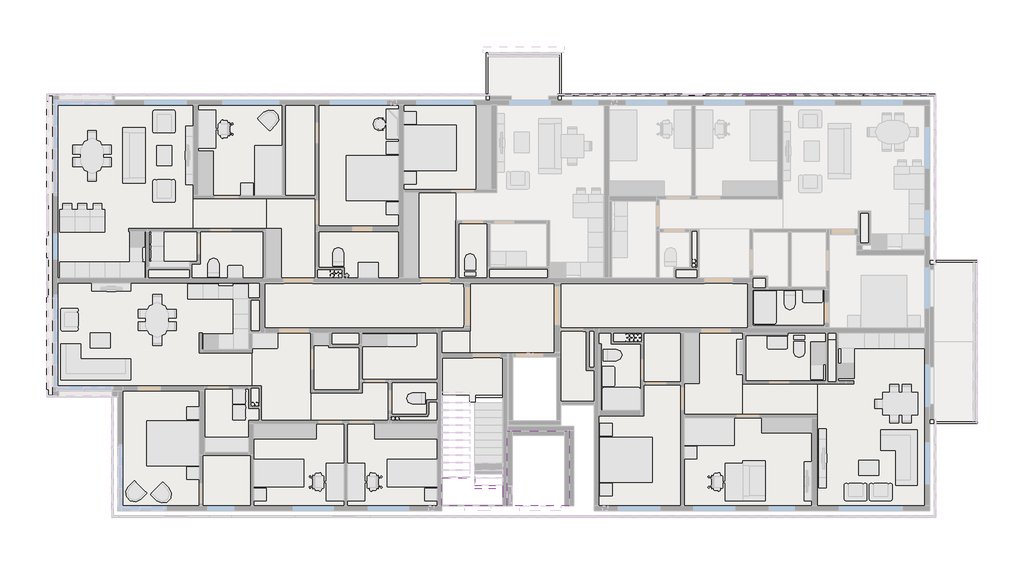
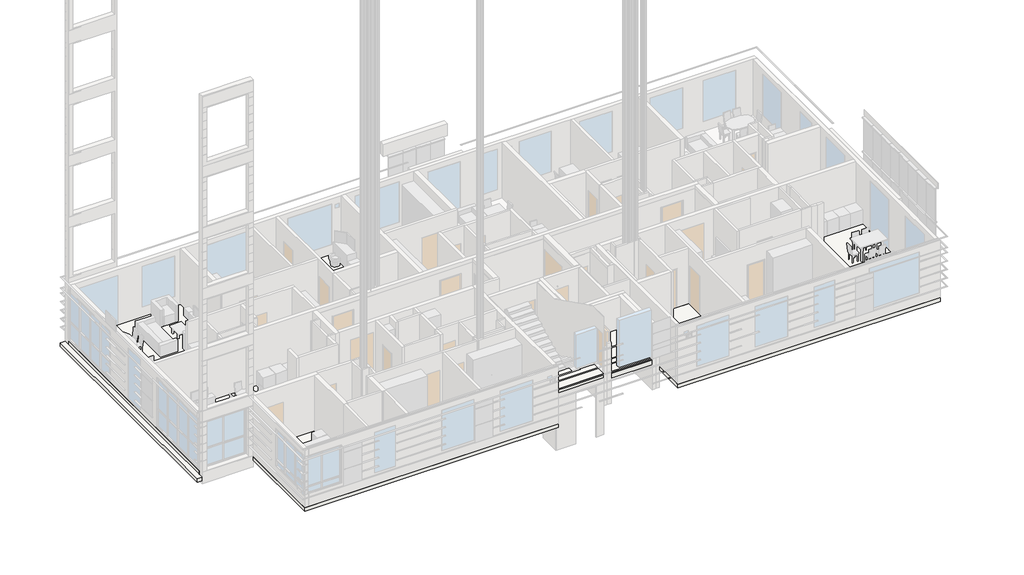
# One storey, part 11 of 14: 42 slabs, 5 proxies.
"""IFC4 building model written with IfcOpenShell, lengths in millimetres."""

from ifc_helpers import new_model, si_unit, frame, origin, place, context, project, spatial, polyline, outline, extrude, faceted_brep, element, save

model = new_model("IFC4")

# Units and contexts
model_context = context("Model", 3, world=origin())
ifc_project = project(units=[si_unit("LENGTHUNIT", "METRE", prefix="MILLI")], contexts=[model_context])

# Site, building, storey
site = spatial("IfcSite", under=ifc_project)
building = spatial("IfcBuilding", under=site)
storey = spatial("IfcBuildingStorey", under=building, Name="03_+7,700_Ж", Elevation=4500.0)

# Proxies
placement = place(None, origin())
element("IfcBuildingElementProxy", 1, Name="Reveals", at=placement, inside=storey, context=model_context, shape_type="SweptSolid", body=[
    extrude(outline(polyline([(161630.0000001, 128049.9999987), (161570.0000001, 127989.9999987), (160230.0000001, 127989.9999987), (160230.0000001, 128049.9999987), (161630.0000001, 128049.9999987)])), frame((0.0, 0.0, 6880.0), z_axis=(0.0, 0.0, 1.0), x_axis=(1.0, 0.0, 0.0)), (0.0, 0.0, 1.0), 5.0),
    extrude(outline(polyline([(147180.0000002, 128049.9999987), (147180.0000002, 127989.9999987), (146529.5000001, 127989.9999987), (146529.5000001, 128049.9999987), (147180.0000002, 128049.9999987)])), frame((0.0, 0.0, 6880.0), z_axis=(0.0, 0.0, 1.0), x_axis=(1.0, 0.0, 0.0)), (0.0, 0.0, 1.0), 5.0),
    extrude(outline(polyline([(149330.0000001, 128049.9999987), (149330.0000001, 127989.9999987), (148080.0000002, 127989.9999987), (148080.0000002, 128049.9999987), (149330.0000001, 128049.9999987)])), frame((0.0, 0.0, 6880.0), z_axis=(0.0, 0.0, 1.0), x_axis=(1.0, 0.0, 0.0)), (0.0, 0.0, 1.0), 5.0),
    extrude(outline(polyline([(152430.0000001, 128049.9999987), (152430.0000001, 127989.9999987), (150830.0000001, 127989.9999987), (150830.0000001, 128049.9999987), (152430.0000001, 128049.9999987)])), frame((0.0, 0.0, 6880.0), z_axis=(0.0, 0.0, 1.0), x_axis=(1.0, 0.0, 0.0)), (0.0, 0.0, 1.0), 5.0),
    extrude(outline(polyline([(156030.0000001, 128049.9999987), (156030.0000001, 127989.9999987), (153930.0000001, 127989.9999987), (153930.0000001, 128049.9999987), (156030.0000001, 128049.9999987)])), frame((0.0, 0.0, 6880.0), z_axis=(0.0, 0.0, 1.0), x_axis=(1.0, 0.0, 0.0)), (0.0, 0.0, 1.0), 5.0),
    extrude(outline(polyline([(158730.0000001, 128049.9999987), (158730.0000001, 127989.9999987), (157530.0000001, 127989.9999987), (157530.0000001, 128049.9999987), (158730.0000001, 128049.9999987)])), frame((0.0, 0.0, 6880.0), z_axis=(0.0, 0.0, 1.0), x_axis=(1.0, 0.0, 0.0)), (0.0, 0.0, 1.0), 5.0),
])
element("IfcBuildingElementProxy", 2, Name="Reveals", at=placement, inside=storey, context=model_context, shape_type="SweptSolid", body=[
    extrude(outline(polyline([(161630.0000001, 128049.9999987), (161570.0000001, 127989.9999987), (160230.0000001, 127989.9999987), (160230.0000001, 128049.9999987), (161630.0000001, 128049.9999987)])), frame((0.0, 0.0, 6425.0), z_axis=(0.0, 0.0, 1.0), x_axis=(1.0, 0.0, 0.0)), (0.0, 0.0, 1.0), 5.0),
    extrude(outline(polyline([(158730.0000001, 128049.9999987), (158730.0000001, 127989.9999987), (157530.0000001, 127989.9999987), (157530.0000001, 128049.9999987), (158730.0000001, 128049.9999987)])), frame((0.0, 0.0, 6425.0), z_axis=(0.0, 0.0, 1.0), x_axis=(1.0, 0.0, 0.0)), (0.0, 0.0, 1.0), 5.0),
    extrude(outline(polyline([(147180.0000002, 128049.9999987), (147180.0000002, 127989.9999987), (146529.5000001, 127989.9999987), (146529.5000001, 128049.9999987), (147180.0000002, 128049.9999987)])), frame((0.0, 0.0, 6425.0), z_axis=(0.0, 0.0, 1.0), x_axis=(1.0, 0.0, 0.0)), (0.0, 0.0, 1.0), 5.0),
    extrude(outline(polyline([(149330.0000001, 128049.9999987), (149330.0000001, 127989.9999987), (148080.0000002, 127989.9999987), (148080.0000002, 128049.9999987), (149330.0000001, 128049.9999987)])), frame((0.0, 0.0, 6425.0), z_axis=(0.0, 0.0, 1.0), x_axis=(1.0, 0.0, 0.0)), (0.0, 0.0, 1.0), 5.0),
    extrude(outline(polyline([(151530.0000001, 128049.9999987), (151530.0000001, 127989.9999987), (150830.0000001, 127989.9999987), (150830.0000001, 128049.9999987), (151530.0000001, 128049.9999987)])), frame((0.0, 0.0, 6425.0), z_axis=(0.0, 0.0, 1.0), x_axis=(1.0, 0.0, 0.0)), (0.0, 0.0, 1.0), 5.0),
    extrude(outline(polyline([(156030.0000001, 128049.9999987), (156030.0000001, 127989.9999987), (153930.0000001, 127989.9999987), (153930.0000001, 128049.9999987), (156030.0000001, 128049.9999987)])), frame((0.0, 0.0, 6425.0), z_axis=(0.0, 0.0, 1.0), x_axis=(1.0, 0.0, 0.0)), (0.0, 0.0, 1.0), 5.0),
])
element("IfcBuildingElementProxy", 3, Name="Reveals", at=placement, inside=storey, context=model_context, shape_type="SweptSolid", body=[
    extrude(outline(polyline([(161630.0000001, 128049.9999987), (161570.0000001, 127989.9999987), (160230.0000001, 127989.9999987), (160230.0000001, 128049.9999987), (161630.0000001, 128049.9999987)])), frame((0.0, 0.0, 5970.0), z_axis=(0.0, 0.0, 1.0), x_axis=(1.0, 0.0, 0.0)), (0.0, 0.0, 1.0), 5.0),
    extrude(outline(polyline([(147180.0000002, 128049.9999987), (147180.0000002, 127989.9999987), (146529.5000001, 127989.9999987), (146529.5000001, 128049.9999987), (147180.0000002, 128049.9999987)])), frame((0.0, 0.0, 5970.0), z_axis=(0.0, 0.0, 1.0), x_axis=(1.0, 0.0, 0.0)), (0.0, 0.0, 1.0), 5.0),
    extrude(outline(polyline([(149330.0000001, 128049.9999987), (149330.0000001, 127989.9999987), (148080.0000002, 127989.9999987), (148080.0000002, 128049.9999987), (149330.0000001, 128049.9999987)])), frame((0.0, 0.0, 5970.0), z_axis=(0.0, 0.0, 1.0), x_axis=(1.0, 0.0, 0.0)), (0.0, 0.0, 1.0), 5.0),
    extrude(outline(polyline([(152430.0000001, 128049.9999987), (152430.0000001, 127989.9999987), (150830.0000001, 127989.9999987), (150830.0000001, 128049.9999987), (152430.0000001, 128049.9999987)])), frame((0.0, 0.0, 5970.0), z_axis=(0.0, 0.0, 1.0), x_axis=(1.0, 0.0, 0.0)), (0.0, 0.0, 1.0), 5.0),
    extrude(outline(polyline([(156030.0000001, 128049.9999987), (156030.0000001, 127989.9999987), (153930.0000001, 127989.9999987), (153930.0000001, 128049.9999987), (156030.0000001, 128049.9999987)])), frame((0.0, 0.0, 5970.0), z_axis=(0.0, 0.0, 1.0), x_axis=(1.0, 0.0, 0.0)), (0.0, 0.0, 1.0), 5.0),
    extrude(outline(polyline([(158730.0000001, 128049.9999987), (158730.0000001, 127989.9999987), (157530.0000001, 127989.9999987), (157530.0000001, 128049.9999987), (158730.0000001, 128049.9999987)])), frame((0.0, 0.0, 5970.0), z_axis=(0.0, 0.0, 1.0), x_axis=(1.0, 0.0, 0.0)), (0.0, 0.0, 1.0), 5.0),
])
element("IfcBuildingElementProxy", 4, Name="Reveals", at=placement, inside=storey, context=model_context, shape_type="SweptSolid", body=[
    extrude(outline(polyline([(161630.0000001, 128049.9999987), (161570.0000001, 127989.9999987), (160230.0000001, 127989.9999987), (160230.0000001, 128049.9999987), (161630.0000001, 128049.9999987)])), frame((0.0, 0.0, 5515.0), z_axis=(0.0, 0.0, 1.0), x_axis=(1.0, 0.0, 0.0)), (0.0, 0.0, 1.0), 5.0),
    extrude(outline(polyline([(158730.0000001, 128049.9999987), (158730.0000001, 127989.9999987), (157530.0000001, 127989.9999987), (157530.0000001, 128049.9999987), (158730.0000001, 128049.9999987)])), frame((0.0, 0.0, 5515.0), z_axis=(0.0, 0.0, 1.0), x_axis=(1.0, 0.0, 0.0)), (0.0, 0.0, 1.0), 5.0),
    extrude(outline(polyline([(147180.0000002, 128049.9999987), (147180.0000002, 127989.9999987), (146529.5000001, 127989.9999987), (146529.5000001, 128049.9999987), (147180.0000002, 128049.9999987)])), frame((0.0, 0.0, 5515.0), z_axis=(0.0, 0.0, 1.0), x_axis=(1.0, 0.0, 0.0)), (0.0, 0.0, 1.0), 5.0),
    extrude(outline(polyline([(149330.0000001, 128049.9999987), (149330.0000001, 127989.9999987), (148080.0000002, 127989.9999987), (148080.0000002, 128049.9999987), (149330.0000001, 128049.9999987)])), frame((0.0, 0.0, 5515.0), z_axis=(0.0, 0.0, 1.0), x_axis=(1.0, 0.0, 0.0)), (0.0, 0.0, 1.0), 5.0),
    extrude(outline(polyline([(151530.0000001, 128049.9999987), (151530.0000001, 127989.9999987), (150830.0000001, 127989.9999987), (150830.0000001, 128049.9999987), (151530.0000001, 128049.9999987)])), frame((0.0, 0.0, 5515.0), z_axis=(0.0, 0.0, 1.0), x_axis=(1.0, 0.0, 0.0)), (0.0, 0.0, 1.0), 5.0),
    extrude(outline(polyline([(156030.0000001, 128049.9999987), (156030.0000001, 127989.9999987), (153930.0000001, 127989.9999987), (153930.0000001, 128049.9999987), (156030.0000001, 128049.9999987)])), frame((0.0, 0.0, 5515.0), z_axis=(0.0, 0.0, 1.0), x_axis=(1.0, 0.0, 0.0)), (0.0, 0.0, 1.0), 5.0),
])
element("IfcBuildingElementProxy", 5, Name="Reveals", at=placement, inside=storey, context=model_context, shape_type="SweptSolid", body=[
    extrude(outline(polyline([(161630.0000001, 128049.9999987), (161570.0000001, 127989.9999987), (146529.5000001, 127989.9999987), (146529.5000001, 128049.9999987), (161630.0000001, 128049.9999987)])), frame((0.0, 0.0, 5060.0), z_axis=(0.0, 0.0, 1.0), x_axis=(1.0, 0.0, 0.0)), (0.0, 0.0, 1.0), 5.0),
])

# Slabs
element("IfcSlab", 6, ObjectType="FIN_50_Тип 17_ЛК промежуточные-------", at=placement, inside=storey, context=model_context, shape_type="Brep", body=[
    faceted_brep([(144350.0000001, 111599.9999987, 6100.0), (141910.0000001, 111599.9999987, 6100.0), (141910.0000001, 112719.9999987, 6100.0), (143230.0000001, 112719.9999987, 6100.0), (143230.0000001, 112419.9999987, 6100.0), (144350.0000001, 112419.9999987, 6100.0), (144350.0000001, 111599.9999987, 6150.0), (144350.0000001, 112419.9999987, 6150.0), (143230.0000001, 112419.9999987, 6150.0), (143230.0000001, 112719.9999987, 6150.0), (141910.0000001, 112719.9999987, 6150.0), (141910.0000001, 111599.9999987, 6150.0), (144350.0000001, 112419.9999987, 6120.0), (143230.0000001, 112719.9999987, 6120.0), (143230.0000001, 112419.9999987, 6120.0)], [[[0, 1, 2, 3, 4, 5]], [[6, 7, 8, 9, 10, 11]], [[0, 5, 12, 7, 6]], [[2, 1, 11, 10]], [[1, 0, 6, 11]], [[3, 2, 10, 9, 13]], [[5, 4, 14, 8, 7, 12]], [[4, 3, 13, 9, 8, 14]]]),
])
element("IfcSlab", 7, ObjectType="STR_CIP_UP_200_выше 0,000-------", at=placement, inside=storey, context=model_context, shape_type="SweptSolid", body=[
    extrude(outline(polyline([(144350.0000002, 111599.9999987), (141910.0000001, 111599.9999987), (141910.0000001, 112749.9999987), (143230.0000002, 112749.9999987), (143230.0000002, 112289.9999987), (144350.0000002, 112289.9999987), (144350.0000002, 111599.9999987)])), frame((0.0, 0.0, 5920.0), z_axis=(0.0, 0.0, 1.0), x_axis=(1.0, 0.0, 0.0)), (0.0, 0.0, 1.0), 200.0),
])
element("IfcSlab", 8, ObjectType="STR_CIP_UP_200_выше 0,000-------", at=placement, inside=storey, context=model_context, shape_type="Brep", body=[
    faceted_brep([(141910.0000002, 111399.9999987, 4200.0), (128980.0000001, 111399.9999987, 4200.0), (128980.0000001, 116199.9999987, 4200.0), (126380.0000001, 116199.9999987, 4200.0), (126380.0000001, 127799.9999987, 4200.0), (143679.5000001, 127799.9999987, 4200.0), (143679.5000001, 128049.9999987, 4200.0), (143679.5000001, 129699.9999987, 4200.0), (146679.5000001, 129699.9999987, 4200.0), (146679.5000001, 128049.9999987, 4200.0), (146679.5000001, 127799.9999987, 4200.0), (161380.0000001, 127799.9999987, 4200.0), (161380.0000001, 121399.9999987, 4200.0), (161630.0000001, 121399.9999987, 4200.0), (163280.0000001, 121399.9999987, 4200.0), (163280.0000001, 114899.9999987, 4200.0), (161630.0000001, 114899.9999987, 4200.0), (161380.0000001, 114899.9999987, 4200.0), (161380.0000001, 111599.9999987, 4200.0), (161380.0000001, 111399.9999987, 4200.0), (148000.0000001, 111399.9999987, 4200.0), (148000.0000001, 111599.9999987, 4200.0), (148000.0000001, 115639.9999987, 4200.0), (146700.0000002, 115639.9999987, 4200.0), (146700.0000002, 117749.9999987, 4200.0), (144530.0000001, 117749.9999987, 4200.0), (144530.0000001, 117519.9999987, 4200.0), (144530.0000001, 115939.9999989, 4200.0), (144350.0000001, 115939.9999989, 4200.0), (144340.0000001, 115939.9999989, 4200.0), (143229.9999999, 115939.9999989, 4200.0), (143229.9999999, 115749.9999989, 4200.0), (143030.0000001, 115749.9999989, 4200.0), (143030.0000001, 115867.7708751, 4200.0), (143030.0000001, 116149.9999987, 4200.0), (141910.0000001, 116149.9999987, 4200.0), (141910.0000001, 115867.7708751, 4200.0), (128980.0000001, 111399.9999987, 4400.0), (141910.0000002, 111399.9999987, 4400.0), (141910.0000001, 116019.9999987, 4400.0), (141910.0000001, 116149.9999987, 4400.0), (143030.0000001, 116149.9999987, 4400.0), (143030.0000001, 116019.9999987, 4400.0), (143030.0000001, 115749.9999989, 4400.0), (143229.9999999, 115749.9999989, 4400.0), (143229.9999999, 115939.9999989, 4400.0), (144350.0000001, 115939.9999989, 4400.0), (144530.0000001, 115939.9999989, 4400.0), (144530.0000001, 117519.9999987, 4400.0), (144530.0000001, 117749.9999987, 4400.0), (146700.0000002, 117749.9999987, 4400.0), (146700.0000002, 115639.9999987, 4400.0), (148000.0000001, 115639.9999987, 4400.0), (148000.0000001, 111599.9999987, 4400.0), (148000.0000001, 111399.9999987, 4400.0), (161380.0000001, 111399.9999987, 4400.0), (161380.0000001, 111599.9999987, 4400.0), (161380.0000001, 114899.9999987, 4400.0), (161630.0000001, 114899.9999987, 4400.0), (163280.0000001, 114899.9999987, 4400.0), (163280.0000001, 121399.9999987, 4400.0), (161630.0000001, 121399.9999987, 4400.0), (161380.0000001, 121399.9999987, 4400.0), (161380.0000001, 127799.9999987, 4400.0), (146679.5000001, 127799.9999987, 4400.0), (146679.5000001, 128049.9999987, 4400.0), (146679.5000001, 129699.9999987, 4400.0), (143679.5000001, 129699.9999987, 4400.0), (143679.5000001, 128049.9999987, 4400.0), (143679.5000001, 127799.9999987, 4400.0), (126380.0000001, 127799.9999987, 4400.0), (126380.0000001, 116199.9999987, 4400.0), (128980.0000001, 116199.9999987, 4400.0), (143030.0000001, 115749.9999989, 4320.0)], [[[0, 1, 2, 3, 4, 5, 6, 7, 8, 9, 10, 11, 12, 13, 14, 15, 16, 17, 18, 19, 20, 21, 22, 23, 24, 25, 26, 27, 28, 29, 30, 31, 32, 33, 34, 35, 36]], [[37, 38, 39, 40, 41, 42, 43, 44, 45, 46, 47, 48, 49, 50, 51, 52, 53, 54, 55, 56, 57, 58, 59, 60, 61, 62, 63, 64, 65, 66, 67, 68, 69, 70, 71, 72]], [[1, 0, 38, 37]], [[2, 1, 37, 72]], [[11, 10, 64, 63]], [[12, 11, 63, 62]], [[3, 2, 72, 71]], [[4, 3, 71, 70]], [[14, 13, 12, 62, 61, 60]], [[15, 14, 60, 59]], [[17, 16, 15, 59, 58, 57]], [[19, 18, 17, 57, 56, 55]], [[5, 4, 70, 69]], [[7, 6, 5, 69, 68, 67]], [[8, 7, 67, 66]], [[10, 9, 8, 66, 65, 64]], [[20, 19, 55, 54]], [[22, 21, 20, 54, 53, 52]], [[23, 22, 52, 51]], [[38, 0, 36, 35, 40, 39]], [[32, 31, 44, 43, 73]], [[41, 34, 33, 32, 73, 43, 42]], [[24, 23, 51, 50]], [[25, 24, 50, 49]], [[27, 26, 25, 49, 48, 47]], [[34, 41, 40, 35]], [[30, 29, 28, 27, 47, 46, 45]], [[31, 30, 45, 44]]]),
])
element("IfcSlab", 9, ObjectType="FIN_100_Тип 15_МОП поэтажные-------", at=placement, inside=storey, context=model_context, shape_type="SweptSolid", body=[
    extrude(outline(polyline([(142240.0000001, 120499.9999987), (142800.0000002, 120499.9999987), (142800.0000002, 120334.9999987), (142925.0000002, 120334.9999987), (142925.0000002, 118804.9999987), (142800.0000002, 118804.9999987), (142800.0000002, 118699.9999987), (136580.0000001, 118699.9999987), (136580.0000001, 118599.9999987), (135430.0000001, 118599.9999987), (135430.0000001, 118699.9999987), (134840.0000001, 118699.9999987), (134840.0000001, 120499.9999987), (135605.0000001, 120499.9999987), (135605.0000001, 120599.9999987), (136755.0000001, 120599.9999987), (136755.0000001, 120499.9999987), (141090.0000001, 120499.9999987), (141090.0000001, 120599.9999987), (142240.0000001, 120599.9999987), (142240.0000001, 120499.9999987)])), frame((0.0, 0.0, 4400.0), z_axis=(0.0, 0.0, 1.0), x_axis=(1.0, 0.0, 0.0)), (0.0, 0.0, 1.0), 100.0),
])
element("IfcSlab", 10, ObjectType="FIN_100_Тип 15_МОП поэтажные-------", at=placement, inside=storey, context=model_context, shape_type="SweptSolid", body=[
    extrude(outline(polyline([(152375.0000001, 120499.9999987), (152375.0000001, 120599.9999987), (153525.0000001, 120599.9999987), (153525.0000001, 120499.9999987), (154130.0000001, 120499.9999987), (154130.0000001, 118699.9999987), (153432.0000001, 118699.9999987), (153432.0000001, 118599.9999987), (152282.0000001, 118599.9999987), (152282.0000001, 118699.9999987), (147550.0000002, 118699.9999987), (147550.0000002, 118639.9999987), (146650.0000002, 118639.9999987), (146650.0000002, 118824.9999987), (146525.0000002, 118824.9999987), (146525.0000002, 120354.9999987), (146650.0000002, 120354.9999987), (146650.0000002, 120499.9999987), (152375.0000001, 120499.9999987)])), frame((0.0, 0.0, 4400.0), z_axis=(0.0, 0.0, 1.0), x_axis=(1.0, 0.0, 0.0)), (0.0, 0.0, 1.0), 100.0),
])
element("IfcSlab", 11, ObjectType="FIN_100_Тип 15_МОП поэтажные-------", at=placement, inside=storey, context=model_context, shape_type="SweptSolid", body=[
    extrude(outline(polyline([(146400.0000002, 120499.9999987), (146400.0000002, 120354.9999987), (146525.0000002, 120354.9999987), (146525.0000002, 118824.9999987), (146400.0000002, 118824.9999987), (146400.0000002, 117699.9999987), (144250.0000002, 117699.9999987), (144250.0000002, 117609.9999987), (143150.0000002, 117609.9999987), (143150.0000002, 117699.9999987), (143050.0000002, 117699.9999987), (143050.0000002, 118804.9999987), (142925.0000002, 118804.9999987), (142925.0000002, 120334.9999987), (143050.0000002, 120334.9999987), (143050.0000002, 120499.9999987), (146400.0000002, 120499.9999987)])), frame((0.0, 0.0, 4400.0), z_axis=(0.0, 0.0, 1.0), x_axis=(1.0, 0.0, 0.0)), (0.0, 0.0, 1.0), 100.0),
])
element("IfcSlab", 12, ObjectType="FIN_100_Тип 15_ЛК поэтажные-------", at=placement, inside=storey, context=model_context, shape_type="Brep", body=[
    faceted_brep([(143150.0000002, 117519.9999987, 4400.0), (143150.0000002, 117609.9999987, 4400.0), (144250.0000002, 117609.9999987, 4400.0), (144250.0000002, 117519.9999987, 4400.0), (144350.0000002, 117519.9999987, 4400.0), (144350.0000002, 116029.9999988, 4400.0), (143239.9999999, 116029.9999988, 4400.0), (143239.9999999, 115749.9999989, 4400.0), (143019.9999999, 115749.9999989, 4400.0), (143019.9999999, 116029.9999988, 4400.0), (141910.0000002, 116029.9999988, 4400.0), (141910.0000002, 117519.9999987, 4400.0), (143150.0000002, 117519.9999987, 4500.0), (141910.0000002, 117519.9999987, 4500.0), (141910.0000002, 116029.9999988, 4500.0), (143019.9999999, 116029.9999988, 4500.0), (143019.9999999, 116019.9999987, 4500.0), (143019.9999999, 115749.9999989, 4500.0), (143030.0000001, 115749.9999989, 4500.0), (143239.9999999, 115749.9999989, 4500.0), (143239.9999999, 116029.9999988, 4500.0), (144350.0000002, 116029.9999988, 4500.0), (144350.0000002, 117519.9999987, 4500.0), (144250.0000002, 117519.9999987, 4500.0), (144250.0000002, 117609.9999987, 4500.0), (143150.0000002, 117609.9999987, 4500.0), (143019.9999999, 115749.9999989, 4470.0)], [[[0, 1, 2, 3, 4, 5, 6, 7, 8, 9, 10, 11]], [[12, 13, 14, 15, 16, 17, 18, 19, 20, 21, 22, 23, 24, 25]], [[1, 0, 12, 25]], [[2, 1, 25, 24]], [[3, 2, 24, 23]], [[4, 3, 23, 22]], [[5, 4, 22, 21]], [[8, 7, 19, 18, 17, 26]], [[9, 8, 26, 17, 16, 15]], [[10, 9, 15, 14]], [[11, 10, 14, 13]], [[0, 11, 13, 12]], [[6, 5, 21, 20]], [[7, 6, 20, 19]]]),
])
element("IfcSlab", 13, ObjectType="FIN_100_Тех.пом поэтажные-------", at=placement, inside=storey, context=model_context, shape_type="SweptSolid", body=[
    extrude(outline(polyline([(147550.0000002, 118639.9999987), (147550.0000002, 118579.9999987), (147680.0000001, 118579.9999987), (147680.0000001, 117009.9999987), (148000.0000001, 117009.9999987), (148000.0000001, 115759.9999987), (146650.0000001, 115759.9999987), (146650.0000001, 118639.9999987), (147550.0000002, 118639.9999987)])), frame((0.0, 0.0, 4400.0), z_axis=(0.0, 0.0, 1.0), x_axis=(1.0, 0.0, 0.0)), (0.0, 0.0, 1.0), 100.0),
])
element("IfcSlab", 14, ObjectType="FIN_100_Тип 19_Квартиры-------", at=placement, inside=storey, context=model_context, shape_type="Brep", body=[
    faceted_brep([(134405.0000001, 111599.9999987, 4400.0), (132235.0000001, 111599.9999987, 4400.0), (132235.0000001, 113734.9999987, 4400.0), (132445.0000001, 113734.9999987, 4400.0), (134405.0000001, 113734.9999987, 4400.0), (134405.0000001, 111599.9999987, 4500.0), (134405.0000001, 113734.9999987, 4500.0), (132445.0000001, 113734.9999987, 4500.0), (132235.0000001, 113734.9999987, 4500.0), (132235.0000001, 111599.9999987, 4500.0)], [[[0, 1, 2, 3, 4]], [[5, 6, 7, 8, 9]], [[1, 0, 5, 9]], [[2, 1, 9, 8]], [[4, 3, 2, 8, 7, 6]], [[0, 4, 6, 5]]]),
])
element("IfcSlab", 15, ObjectType="FIN_100_Тип 19_Квартиры-------", at=placement, inside=storey, context=model_context, shape_type="Brep", body=[
    faceted_brep([(149975.0000001, 118499.9999987, 4400.0), (151582.0000001, 118499.9999987, 4400.0), (151582.0000001, 116424.9999987, 4400.0), (151580.0000001, 116424.9999987, 4400.0), (149850.0000001, 116424.9999987, 4400.0), (149850.0000001, 118069.9999987, 4400.0), (149975.0000001, 118069.9999987, 4400.0), (149975.0000001, 118499.9999987, 4500.0), (149975.0000001, 118069.9999987, 4500.0), (149850.0000001, 118069.9999987, 4500.0), (149850.0000001, 116424.9999987, 4500.0), (151580.0000001, 116424.9999987, 4500.0), (151582.0000001, 116424.9999987, 4500.0), (151582.0000001, 118499.9999987, 4500.0)], [[[0, 1, 2, 3, 4, 5, 6]], [[7, 8, 9, 10, 11, 12, 13]], [[1, 0, 7, 13]], [[2, 1, 13, 12]], [[4, 3, 2, 12, 11, 10]], [[0, 6, 8, 7]], [[5, 4, 10, 9]], [[6, 5, 9, 8]]]),
])
element("IfcSlab", 16, ObjectType="FIN_100_Тип 19_Квартиры-------", at=placement, inside=storey, context=model_context, shape_type="SweptSolid", body=[
    extrude(outline(polyline([(135540.0000001, 127599.9999987), (136970.0000001, 127599.9999987), (136970.0000001, 123874.9999987), (135540.0000001, 123874.9999987), (135540.0000001, 127599.9999987)])), frame((0.0, 0.0, 4400.0), z_axis=(0.0, 0.0, 1.0), x_axis=(1.0, 0.0, 0.0)), (0.0, 0.0, 1.0), 100.0),
])
element("IfcSlab", 17, ObjectType="FIN_100_Тип 19_Квартиры-------", at=placement, inside=storey, context=model_context, shape_type="SweptSolid", body=[
    extrude(outline(polyline([(136680.0000001, 118499.9999987), (137390.0000001, 118499.9999987), (137390.0000001, 117929.9999987), (138730.0000001, 117929.9999987), (138730.0000001, 116104.9999987), (136680.0000001, 116104.9999987), (136680.0000001, 118499.9999987)])), frame((0.0, 0.0, 4400.0), z_axis=(0.0, 0.0, 1.0), x_axis=(1.0, 0.0, 0.0)), (0.0, 0.0, 1.0), 100.0),
])
element("IfcSlab", 18, ObjectType="FIN_100_Тип 19_Квартиры-------", at=placement, inside=storey, context=model_context, shape_type="SweptSolid", body=[
    extrude(outline(polyline([(141730.0000002, 111599.9999987), (138130.0000001, 111599.9999987), (138130.0000001, 115004.9999987), (139760.0000001, 115004.9999987), (139760.0000001, 114879.9999987), (141730.0000002, 114879.9999987), (141730.0000002, 111599.9999987)])), frame((0.0, 0.0, 4400.0), z_axis=(0.0, 0.0, 1.0), x_axis=(1.0, 0.0, 0.0)), (0.0, 0.0, 1.0), 100.0),
])
element("IfcSlab", 19, ObjectType="FIN_100_Тип 19_Квартиры-------", at=placement, inside=storey, context=model_context, shape_type="Brep", body=[
    faceted_brep([(156890.0000001, 111599.9999987, 4400.0), (151582.0000001, 111599.9999987, 4400.0), (151582.0000001, 115244.9999987, 4400.0), (153925.0000001, 115244.9999987, 4400.0), (156890.0000001, 115244.9999987, 4400.0), (156890.0000001, 111599.9999987, 4500.0), (156890.0000001, 115244.9999987, 4500.0), (153925.0000001, 115244.9999987, 4500.0), (151582.0000001, 115244.9999987, 4500.0), (151582.0000001, 111599.9999987, 4500.0)], [[[0, 1, 2, 3, 4]], [[5, 6, 7, 8, 9]], [[1, 0, 5, 9]], [[2, 1, 9, 8]], [[4, 3, 2, 8, 7, 6]], [[0, 4, 6, 5]]]),
])
element("IfcSlab", 20, ObjectType="FIN_100_Тип 19_Квартиры-------", at=placement, inside=storey, context=model_context, shape_type="Brep", body=[
    faceted_brep([(131980.0000001, 123874.9999987, 4400.0), (131980.0000001, 127599.9999987, 4400.0), (135540.0000001, 127599.9999987, 4400.0), (135540.0000001, 123874.9999987, 4400.0), (134905.0000001, 123874.9999987, 4400.0), (131980.0000001, 123874.9999987, 4500.0), (134905.0000001, 123874.9999987, 4500.0), (135540.0000001, 123874.9999987, 4500.0), (135540.0000001, 127599.9999987, 4500.0), (131980.0000001, 127599.9999987, 4500.0)], [[[0, 1, 2, 3, 4]], [[5, 6, 7, 8, 9]], [[1, 0, 5, 9]], [[2, 1, 9, 8]], [[3, 2, 8, 7]], [[0, 4, 3, 7, 6, 5]]]),
])
element("IfcSlab", 21, ObjectType="FIN_100_Тип 19_Квартиры-------", at=placement, inside=storey, context=model_context, shape_type="Brep", body=[
    faceted_brep([(138130.0000001, 111599.9999987, 4400.0), (134405.0000001, 111599.9999987, 4400.0), (134405.0000001, 113734.9999987, 4400.0), (134195.0000001, 113734.9999987, 4400.0), (134195.0000001, 115004.9999987, 4400.0), (136680.0000001, 115004.9999987, 4400.0), (138130.0000001, 115004.9999987, 4400.0), (138130.0000001, 111599.9999987, 4500.0), (138130.0000001, 115004.9999987, 4500.0), (136680.0000001, 115004.9999987, 4500.0), (134195.0000001, 115004.9999987, 4500.0), (134195.0000001, 113734.9999987, 4500.0), (134405.0000001, 113734.9999987, 4500.0), (134405.0000001, 111599.9999987, 4500.0)], [[[0, 1, 2, 3, 4, 5, 6]], [[7, 8, 9, 10, 11, 12, 13]], [[1, 0, 7, 13]], [[2, 1, 13, 12]], [[6, 5, 4, 10, 9, 8]], [[0, 6, 8, 7]], [[3, 2, 12, 11]], [[4, 3, 11, 10]]]),
])
element("IfcSlab", 22, ObjectType="FIN_100_Тип 19_Квартиры-------", at=placement, inside=storey, context=model_context, shape_type="Brep", body=[
    faceted_brep([(136680.0000001, 115004.9999987, 4400.0), (136680.0000001, 116104.9999987, 4400.0), (138730.0000001, 116104.9999987, 4400.0), (138730.0000001, 116649.9999987, 4400.0), (139905.0000001, 116649.9999987, 4400.0), (139905.0000001, 115249.9999987, 4400.0), (139780.0000001, 115249.9999987, 4400.0), (139780.0000001, 115004.9999987, 4400.0), (139760.0000001, 115004.9999987, 4400.0), (138130.0000001, 115004.9999987, 4400.0), (136680.0000001, 115004.9999987, 4500.0), (138130.0000001, 115004.9999987, 4500.0), (139760.0000001, 115004.9999987, 4500.0), (139780.0000001, 115004.9999987, 4500.0), (139780.0000001, 115249.9999987, 4500.0), (139905.0000001, 115249.9999987, 4500.0), (139905.0000001, 116649.9999987, 4500.0), (138730.0000001, 116649.9999987, 4500.0), (138730.0000001, 116104.9999987, 4500.0), (136680.0000001, 116104.9999987, 4500.0)], [[[0, 1, 2, 3, 4, 5, 6, 7, 8, 9]], [[10, 11, 12, 13, 14, 15, 16, 17, 18, 19]], [[1, 0, 10, 19]], [[2, 1, 19, 18]], [[3, 2, 18, 17]], [[4, 3, 17, 16]], [[5, 4, 16, 15]], [[6, 5, 15, 14]], [[7, 6, 14, 13]], [[0, 9, 8, 7, 13, 12, 11, 10]]]),
])
element("IfcSlab", 23, ObjectType="FIN_100_Тип 19_Квартиры-------", at=placement, inside=storey, context=model_context, shape_type="Brep", body=[
    faceted_brep([(153925.0000001, 116589.9999987, 4400.0), (154050.0000001, 116589.9999987, 4400.0), (156890.0000001, 116589.9999987, 4400.0), (156890.0000001, 115244.9999987, 4400.0), (153925.0000001, 115244.9999987, 4400.0), (153925.0000001, 116589.9999987, 4500.0), (153925.0000001, 115244.9999987, 4500.0), (156890.0000001, 115244.9999987, 4500.0), (156890.0000001, 116589.9999987, 4500.0), (154050.0000001, 116589.9999987, 4500.0)], [[[0, 1, 2, 3, 4]], [[5, 6, 7, 8, 9]], [[2, 1, 0, 5, 9, 8]], [[3, 2, 8, 7]], [[4, 3, 7, 6]], [[0, 4, 6, 5]]]),
])
element("IfcSlab", 24, ObjectType="FIN_100_Тип 19_Квартиры-------", at=placement, inside=storey, context=model_context, shape_type="Brep", body=[
    faceted_brep([(131980.0000001, 123874.9999987, 4400.0), (134905.0000001, 123874.9999987, 4400.0), (134905.0000001, 122549.9999987, 4400.0), (134780.0000001, 122549.9999987, 4400.0), (132265.0000001, 122549.9999987, 4400.0), (131980.0000001, 122549.9999987, 4400.0), (131980.0000001, 123874.9999987, 4500.0), (131980.0000001, 122549.9999987, 4500.0), (132265.0000001, 122549.9999987, 4500.0), (134780.0000001, 122549.9999987, 4500.0), (134905.0000001, 122549.9999987, 4500.0), (134905.0000001, 123874.9999987, 4500.0)], [[[0, 1, 2, 3, 4, 5]], [[6, 7, 8, 9, 10, 11]], [[1, 0, 6, 11]], [[2, 1, 11, 10]], [[5, 4, 3, 2, 10, 9, 8, 7]], [[0, 5, 7, 6]]]),
])
element("IfcSlab", 25, ObjectType="FIN_100_Тип 19_Квартиры-------", at=placement, inside=storey, context=model_context, shape_type="Brep", body=[
    faceted_brep([(126580.0000001, 116399.9999987, 4400.0), (126580.0000001, 120499.9999987, 4400.0), (134640.0000001, 120499.9999987, 4400.0), (134640.0000001, 119909.9999987, 4400.0), (134210.0000001, 119909.9999987, 4400.0), (134210.0000001, 118499.9999987, 4400.0), (134315.0000001, 118499.9999987, 4400.0), (134315.0000001, 116399.9999987, 4400.0), (134195.0000001, 116399.9999987, 4400.0), (134195.0000001, 116274.9999987, 4400.0), (132445.0000001, 116274.9999987, 4400.0), (132445.0000001, 116399.9999987, 4400.0), (129180.0000001, 116399.9999987, 4400.0), (126580.0000001, 120499.9999987, 4500.0), (126580.0000001, 116399.9999987, 4500.0), (129180.0000001, 116399.9999987, 4500.0), (132445.0000001, 116399.9999987, 4500.0), (132445.0000001, 116274.9999987, 4500.0), (134195.0000001, 116274.9999987, 4500.0), (134195.0000001, 116399.9999987, 4500.0), (134315.0000001, 116399.9999987, 4500.0), (134315.0000001, 118499.9999987, 4500.0), (134210.0000001, 118499.9999987, 4500.0), (134210.0000001, 119909.9999987, 4500.0), (134640.0000001, 119909.9999987, 4500.0), (134640.0000001, 120499.9999987, 4500.0)], [[[0, 1, 2, 3, 4, 5, 6, 7, 8, 9, 10, 11, 12]], [[13, 14, 15, 16, 17, 18, 19, 20, 21, 22, 23, 24, 25]], [[1, 0, 14, 13]], [[2, 1, 13, 25]], [[3, 2, 25, 24]], [[4, 3, 24, 23]], [[5, 4, 23, 22]], [[6, 5, 22, 21]], [[7, 6, 21, 20]], [[8, 7, 20, 19]], [[9, 8, 19, 18]], [[10, 9, 18, 17]], [[11, 10, 17, 16]], [[14, 0, 12, 11, 16, 15]]]),
])
element("IfcSlab", 26, ObjectType="FIN_100_Тип 19_Квартиры-------", at=placement, inside=storey, context=model_context, shape_type="Brep", body=[
    faceted_brep([(161180.0000001, 115579.9999987, 4400.0), (161180.0000001, 111599.9999987, 4400.0), (156890.0000001, 111599.9999987, 4400.0), (156890.0000001, 115244.9999987, 4400.0), (156890.0000001, 116589.9999987, 4400.0), (157225.0000001, 116589.9999987, 4400.0), (157225.0000001, 116464.9999987, 4400.0), (157735.0000001, 116464.9999987, 4400.0), (157735.0000001, 118499.9999987, 4400.0), (161180.0000001, 118499.9999987, 4400.0), (161180.0000001, 117219.9999987, 4400.0), (161300.0000001, 117219.9999987, 4400.0), (161300.0000001, 115579.9999987, 4400.0), (161180.0000001, 115579.9999987, 4500.0), (161300.0000001, 115579.9999987, 4500.0), (161300.0000001, 117219.9999987, 4500.0), (161180.0000001, 117219.9999987, 4500.0), (161180.0000001, 118499.9999987, 4500.0), (157735.0000001, 118499.9999987, 4500.0), (157735.0000001, 116464.9999987, 4500.0), (157225.0000001, 116464.9999987, 4500.0), (157225.0000001, 116589.9999987, 4500.0), (156890.0000001, 116589.9999987, 4500.0), (156890.0000001, 115244.9999987, 4500.0), (156890.0000001, 111599.9999987, 4500.0), (161180.0000001, 111599.9999987, 4500.0)], [[[0, 1, 2, 3, 4, 5, 6, 7, 8, 9, 10, 11, 12]], [[13, 14, 15, 16, 17, 18, 19, 20, 21, 22, 23, 24, 25]], [[1, 0, 13, 25]], [[2, 1, 25, 24]], [[4, 3, 2, 24, 23, 22]], [[7, 6, 20, 19]], [[8, 7, 19, 18]], [[9, 8, 18, 17]], [[10, 9, 17, 16]], [[11, 10, 16, 15]], [[12, 11, 15, 14]], [[0, 12, 14, 13]], [[5, 4, 22, 21]], [[6, 5, 21, 20]]]),
])
element("IfcSlab", 27, ObjectType="FIN_100_Тип 19_Квартиры-------", at=placement, inside=storey, context=model_context, shape_type="Brep", body=[
    faceted_brep([(130100.0000001, 120699.9999987, 4400.0), (126580.0000001, 120699.9999987, 4400.0), (126580.0000001, 127599.9999987, 4400.0), (131980.0000001, 127599.9999987, 4400.0), (131980.0000001, 123874.9999987, 4400.0), (131980.0000001, 122549.9999987, 4400.0), (130205.0000001, 122549.9999987, 4400.0), (130205.0000001, 121129.9999987, 4400.0), (130100.0000001, 121129.9999987, 4400.0), (130100.0000001, 120699.9999987, 4500.0), (130100.0000001, 121129.9999987, 4500.0), (130205.0000001, 121129.9999987, 4500.0), (130205.0000001, 122549.9999987, 4500.0), (131980.0000001, 122549.9999987, 4500.0), (131980.0000001, 123874.9999987, 4500.0), (131980.0000001, 127599.9999987, 4500.0), (126580.0000001, 127599.9999987, 4500.0), (126580.0000001, 120699.9999987, 4500.0)], [[[0, 1, 2, 3, 4, 5, 6, 7, 8]], [[9, 10, 11, 12, 13, 14, 15, 16, 17]], [[1, 0, 9, 17]], [[2, 1, 17, 16]], [[3, 2, 16, 15]], [[5, 4, 3, 15, 14, 13]], [[6, 5, 13, 12]], [[7, 6, 12, 11]], [[8, 7, 11, 10]], [[0, 8, 10, 9]]]),
])
element("IfcSlab", 28, ObjectType="FIN_100_Тип 19_Квартиры-------", at=placement, inside=storey, context=model_context, shape_type="Brep", body=[
    faceted_brep([(151580.0000001, 111599.9999987, 4400.0), (148180.0000001, 111599.9999987, 4400.0), (148180.0000001, 115409.9999987, 4400.0), (149850.0000001, 115409.9999987, 4400.0), (149850.0000001, 116424.9999987, 4400.0), (151580.0000001, 116424.9999987, 4400.0), (151580.0000001, 115244.9999987, 4400.0), (151580.0000001, 111599.9999987, 4500.0), (151580.0000001, 115244.9999987, 4500.0), (151580.0000001, 116424.9999987, 4500.0), (149850.0000001, 116424.9999987, 4500.0), (149850.0000001, 115409.9999987, 4500.0), (148180.0000001, 115409.9999987, 4500.0), (148180.0000001, 111599.9999987, 4500.0)], [[[0, 1, 2, 3, 4, 5, 6]], [[7, 8, 9, 10, 11, 12, 13]], [[1, 0, 7, 13]], [[2, 1, 13, 12]], [[3, 2, 12, 11]], [[4, 3, 11, 10]], [[5, 4, 10, 9]], [[0, 6, 5, 9, 8, 7]]]),
])
element("IfcSlab", 29, ObjectType="FIN_100_Тип 19_Квартиры-------", at=placement, inside=storey, context=model_context, shape_type="Brep", body=[
    faceted_brep([(136970.0000001, 127599.9999987, 4400.0), (140190.0000001, 127599.9999987, 4400.0), (140190.0000001, 122564.9999987, 4400.0), (136970.0000001, 122564.9999987, 4400.0), (136970.0000001, 123874.9999987, 4400.0), (136970.0000001, 127599.9999987, 4500.0), (136970.0000001, 123874.9999987, 4500.0), (136970.0000001, 122564.9999987, 4500.0), (140190.0000001, 122564.9999987, 4500.0), (140190.0000001, 127599.9999987, 4500.0)], [[[0, 1, 2, 3, 4]], [[5, 6, 7, 8, 9]], [[1, 0, 5, 9]], [[2, 1, 9, 8]], [[3, 2, 8, 7]], [[0, 4, 3, 7, 6, 5]]]),
])
element("IfcSlab", 30, ObjectType="FIN_100_Тип 20_Квартиры_С/У-------", at=placement, inside=storey, context=model_context, shape_type="SweptSolid", body=[
    extrude(outline(polyline([(134625.0000001, 115004.9999987), (134195.0000001, 115004.9999987), (134195.0000001, 113734.9999987), (132445.0000001, 113734.9999987), (132445.0000001, 116274.9999987), (134195.0000001, 116274.9999987), (134195.0000001, 115494.9999987), (134625.0000001, 115494.9999987), (134625.0000001, 115004.9999987)])), frame((0.0, 0.0, 4400.0), z_axis=(0.0, 0.0, 1.0), x_axis=(1.0, 0.0, 0.0)), (0.0, 0.0, 1.0), 100.0),
])
element("IfcSlab", 31, ObjectType="FIN_100_Тип 20_Квартиры_С/У-------", at=placement, inside=storey, context=model_context, shape_type="SweptSolid", body=[
    extrude(outline(polyline([(130205.0000001, 121129.9999987), (130205.0000001, 122549.9999987), (132265.0000001, 122549.9999987), (132265.0000001, 121349.9999987), (131855.0000001, 121349.9999987), (131855.0000001, 121129.9999987), (130205.0000001, 121129.9999987)])), frame((0.0, 0.0, 4400.0), z_axis=(0.0, 0.0, 1.0), x_axis=(1.0, 0.0, 0.0)), (0.0, 0.0, 1.0), 100.0),
])
element("IfcSlab", 32, ObjectType="FIN_100_Тип 19_Квартиры-------", at=placement, inside=storey, context=model_context, shape_type="Brep", body=[
    faceted_brep([(136680.0000001, 115004.9999987, 4400.0), (134705.0000001, 115004.9999987, 4400.0), (134705.0000001, 116399.9999987, 4400.0), (134315.0000001, 116399.9999987, 4400.0), (134315.0000001, 118499.9999987, 4400.0), (135430.0000001, 118499.9999987, 4400.0), (135430.0000001, 118599.9999987, 4400.0), (136580.0000001, 118599.9999987, 4400.0), (136580.0000001, 118499.9999987, 4400.0), (136680.0000001, 118499.9999987, 4400.0), (136680.0000001, 116104.9999987, 4400.0), (134705.0000001, 115004.9999987, 4500.0), (136680.0000001, 115004.9999987, 4500.0), (136680.0000001, 116104.9999987, 4500.0), (136680.0000001, 118499.9999987, 4500.0), (136580.0000001, 118499.9999987, 4500.0), (136580.0000001, 118599.9999987, 4500.0), (135430.0000001, 118599.9999987, 4500.0), (135430.0000001, 118499.9999987, 4500.0), (134315.0000001, 118499.9999987, 4500.0), (134315.0000001, 116399.9999987, 4500.0), (134705.0000001, 116399.9999987, 4500.0)], [[[0, 1, 2, 3, 4, 5, 6, 7, 8, 9, 10]], [[11, 12, 13, 14, 15, 16, 17, 18, 19, 20, 21]], [[1, 0, 12, 11]], [[2, 1, 11, 21]], [[3, 2, 21, 20]], [[4, 3, 20, 19]], [[5, 4, 19, 18]], [[6, 5, 18, 17]], [[7, 6, 17, 16]], [[8, 7, 16, 15]], [[9, 8, 15, 14]], [[0, 10, 9, 14, 13, 12]]]),
])
element("IfcSlab", 33, ObjectType="FIN_100_Тип 19_Квартиры-------", at=placement, inside=storey, context=model_context, shape_type="Brep", body=[
    faceted_brep([(153432.0000001, 118499.9999987, 4400.0), (154050.0000001, 118499.9999987, 4400.0), (154050.0000001, 116589.9999987, 4400.0), (153925.0000001, 116589.9999987, 4400.0), (153925.0000001, 115244.9999987, 4400.0), (151582.0000001, 115244.9999987, 4400.0), (151580.0000001, 115244.9999987, 4400.0), (151580.0000001, 116424.9999987, 4400.0), (151580.0000001, 118499.9999987, 4400.0), (152282.0000001, 118499.9999987, 4400.0), (152282.0000001, 118599.9999987, 4400.0), (153432.0000001, 118599.9999987, 4400.0), (154050.0000001, 118499.9999987, 4500.0), (153432.0000001, 118499.9999987, 4500.0), (153432.0000001, 118599.9999987, 4500.0), (152282.0000001, 118599.9999987, 4500.0), (152282.0000001, 118499.9999987, 4500.0), (151580.0000001, 118499.9999987, 4500.0), (151580.0000001, 116424.9999987, 4500.0), (151580.0000001, 115244.9999987, 4500.0), (151582.0000001, 115244.9999987, 4500.0), (153925.0000001, 115244.9999987, 4500.0), (153925.0000001, 116589.9999987, 4500.0), (154050.0000001, 116589.9999987, 4500.0)], [[[0, 1, 2, 3, 4, 5, 6, 7, 8, 9, 10, 11]], [[12, 13, 14, 15, 16, 17, 18, 19, 20, 21, 22, 23]], [[1, 0, 13, 12]], [[3, 22, 21, 4]], [[6, 5, 4, 21, 20, 19]], [[8, 7, 6, 19, 18, 17]], [[9, 8, 17, 16]], [[10, 9, 16, 15]], [[11, 10, 15, 14]], [[0, 11, 14, 13]], [[22, 3, 2, 23]], [[1, 12, 23, 2]]]),
])
element("IfcSlab", 34, ObjectType="FIN_100_Тип 19_Квартиры-------", at=placement, inside=storey, context=model_context, shape_type="Brep", body=[
    faceted_brep([(135605.0000001, 120699.9999987, 4400.0), (134780.0000001, 120699.9999987, 4400.0), (134780.0000001, 122549.9999987, 4400.0), (134905.0000001, 122549.9999987, 4400.0), (134905.0000001, 123874.9999987, 4400.0), (136970.0000001, 123874.9999987, 4400.0), (136970.0000001, 122564.9999987, 4400.0), (136970.0000001, 121129.9999987, 4400.0), (136865.0000001, 121129.9999987, 4400.0), (136865.0000001, 120699.9999987, 4400.0), (136755.0000001, 120699.9999987, 4400.0), (136755.0000001, 120599.9999987, 4400.0), (135605.0000001, 120599.9999987, 4400.0), (134780.0000001, 120699.9999987, 4500.0), (135605.0000001, 120699.9999987, 4500.0), (135605.0000001, 120599.9999987, 4500.0), (136755.0000001, 120599.9999987, 4500.0), (136755.0000001, 120699.9999987, 4500.0), (136865.0000001, 120699.9999987, 4500.0), (136865.0000001, 121129.9999987, 4500.0), (136970.0000001, 121129.9999987, 4500.0), (136970.0000001, 122564.9999987, 4500.0), (136970.0000001, 123874.9999987, 4500.0), (134905.0000001, 123874.9999987, 4500.0), (134905.0000001, 122549.9999987, 4500.0), (134780.0000001, 122549.9999987, 4500.0)], [[[0, 1, 2, 3, 4, 5, 6, 7, 8, 9, 10, 11, 12]], [[13, 14, 15, 16, 17, 18, 19, 20, 21, 22, 23, 24, 25]], [[1, 0, 14, 13]], [[4, 3, 24, 23]], [[5, 4, 23, 22]], [[7, 6, 5, 22, 21, 20]], [[10, 9, 18, 17]], [[11, 10, 17, 16]], [[12, 11, 16, 15]], [[0, 12, 15, 14]], [[8, 7, 20, 19]], [[9, 8, 19, 18]], [[2, 1, 13, 25]], [[3, 2, 25, 24]]]),
])
element("IfcSlab", 35, ObjectType="FIN_100_Тип 19_Квартиры-------", at=placement, inside=storey, context=model_context, shape_type="SweptSolid", body=[
    extrude(outline(polyline([(141090.0000001, 120699.9999987), (140390.0000001, 120699.9999987), (140390.0000001, 124104.9999987), (142465.0000001, 124104.9999987), (142465.0000001, 122874.9999987), (142590.0000001, 122874.9999987), (142590.0000001, 120699.9999987), (142240.0000001, 120699.9999987), (142240.0000001, 120599.9999987), (141090.0000001, 120599.9999987), (141090.0000001, 120699.9999987)])), frame((0.0, 0.0, 4400.0), z_axis=(0.0, 0.0, 1.0), x_axis=(1.0, 0.0, 0.0)), (0.0, 0.0, 1.0), 100.0),
])
element("IfcSlab", 36, ObjectType="FIN_100_Тип 20_Квартиры_С/У-------", at=placement, inside=storey, context=model_context, shape_type="SweptSolid", body=[
    extrude(outline(polyline([(154330.0000001, 118799.9999987), (154330.0000001, 120224.9999987), (157170.0000001, 120224.9999987), (157170.0000001, 118799.9999987), (154330.0000001, 118799.9999987)])), frame((0.0, 0.0, 4400.0), z_axis=(0.0, 0.0, 1.0), x_axis=(1.0, 0.0, 0.0)), (0.0, 0.0, 1.0), 100.0),
])
element("IfcSlab", 37, ObjectType="FIN_100_Тип 20_Квартиры_С/У-------", at=placement, inside=storey, context=model_context, shape_type="SweptSolid", body=[
    extrude(outline(polyline([(141300.0000001, 115839.9999987), (141300.0000001, 115249.9999987), (139905.0000001, 115249.9999987), (139905.0000001, 116649.9999987), (141730.0000002, 116649.9999987), (141730.0000002, 115839.9999987), (141300.0000001, 115839.9999987)])), frame((0.0, 0.0, 4400.0), z_axis=(0.0, 0.0, 1.0), x_axis=(1.0, 0.0, 0.0)), (0.0, 0.0, 1.0), 100.0),
])
element("IfcSlab", 38, ObjectType="FIN_100_Тип 20_Квартиры_С/У-------", at=placement, inside=storey, context=model_context, shape_type="Brep", body=[
    faceted_brep([(148180.0000001, 118499.9999987, 4400.0), (148680.0000001, 118499.9999987, 4400.0), (148680.0000001, 118069.9999987, 4400.0), (149850.0000001, 118069.9999987, 4400.0), (149850.0000001, 116424.9999987, 4400.0), (149850.0000001, 115409.9999987, 4400.0), (148280.0000001, 115409.9999987, 4400.0), (148280.0000001, 118069.9999987, 4400.0), (148180.0000001, 118069.9999987, 4400.0), (148180.0000001, 118499.9999987, 4500.0), (148180.0000001, 118069.9999987, 4500.0), (148280.0000001, 118069.9999987, 4500.0), (148280.0000001, 115409.9999987, 4500.0), (149850.0000001, 115409.9999987, 4500.0), (149850.0000001, 116424.9999987, 4500.0), (149850.0000001, 118069.9999987, 4500.0), (148680.0000001, 118069.9999987, 4500.0), (148680.0000001, 118499.9999987, 4500.0)], [[[0, 1, 2, 3, 4, 5, 6, 7, 8]], [[9, 10, 11, 12, 13, 14, 15, 16, 17]], [[1, 0, 9, 17]], [[2, 1, 17, 16]], [[3, 2, 16, 15]], [[5, 4, 3, 15, 14, 13]], [[6, 5, 13, 12]], [[7, 6, 12, 11]], [[8, 7, 11, 10]], [[0, 8, 10, 9]]]),
])
element("IfcSlab", 39, ObjectType="FIN_100_Тип 20_Квартиры_С/У-------", at=placement, inside=storey, context=model_context, shape_type="Brep", body=[
    faceted_brep([(134780.0000001, 120699.9999987, 4400.0), (131935.0000001, 120699.9999987, 4400.0), (131935.0000001, 121269.9999987, 4400.0), (132265.0000001, 121269.9999987, 4400.0), (132265.0000001, 121349.9999987, 4400.0), (132265.0000001, 122549.9999987, 4400.0), (134780.0000001, 122549.9999987, 4400.0), (131935.0000001, 120699.9999987, 4500.0), (134780.0000001, 120699.9999987, 4500.0), (134780.0000001, 122549.9999987, 4500.0), (132265.0000001, 122549.9999987, 4500.0), (132265.0000001, 121349.9999987, 4500.0), (132265.0000001, 121269.9999987, 4500.0), (131935.0000001, 121269.9999987, 4500.0)], [[[0, 1, 2, 3, 4, 5, 6]], [[7, 8, 9, 10, 11, 12, 13]], [[1, 0, 8, 7]], [[2, 1, 7, 13]], [[3, 2, 13, 12]], [[3, 12, 11, 10, 5, 4]], [[6, 5, 10, 9]], [[0, 6, 9, 8]]]),
])
element("IfcSlab", 40, ObjectType="FIN_100_Тип 20_Квартиры_С/У-------", at=placement, inside=storey, context=model_context, shape_type="SweptSolid", body=[
    extrude(outline(polyline([(140190.0000001, 120699.9999987), (138020.0000001, 120699.9999987), (138020.0000001, 121129.9999987), (136970.0000001, 121129.9999987), (136970.0000001, 122564.9999987), (140190.0000001, 122564.9999987), (140190.0000001, 120699.9999987)])), frame((0.0, 0.0, 4400.0), z_axis=(0.0, 0.0, 1.0), x_axis=(1.0, 0.0, 0.0)), (0.0, 0.0, 1.0), 100.0),
])
element("IfcSlab", 41, ObjectType="FIN_100_Тип 20_Квартиры_С/У-------", at=placement, inside=storey, context=model_context, shape_type="Brep", body=[
    faceted_brep([(138730.0000001, 118499.9999987, 4400.0), (141730.0000002, 118499.9999987, 4400.0), (141730.0000002, 116649.9999987, 4400.0), (139905.0000001, 116649.9999987, 4400.0), (138730.0000001, 116649.9999987, 4400.0), (138730.0000001, 118499.9999987, 4500.0), (138730.0000001, 116649.9999987, 4500.0), (139905.0000001, 116649.9999987, 4500.0), (141730.0000002, 116649.9999987, 4500.0), (141730.0000002, 118499.9999987, 4500.0)], [[[0, 1, 2, 3, 4]], [[5, 6, 7, 8, 9]], [[1, 0, 5, 9]], [[2, 1, 9, 8]], [[4, 3, 2, 8, 7, 6]], [[0, 4, 6, 5]]]),
])
element("IfcSlab", 42, ObjectType="FIN_100_Тип 20_Квартиры_С/У-------", at=placement, inside=storey, context=model_context, shape_type="Brep", body=[
    faceted_brep([(155727.0000001, 118499.9999987, 4400.0), (157665.0000001, 118499.9999987, 4400.0), (157665.0000001, 118249.9999987, 4400.0), (157227.0000001, 118249.9999987, 4400.0), (157227.0000001, 116589.9999987, 4400.0), (156890.0000001, 116589.9999987, 4400.0), (154050.0000001, 116589.9999987, 4400.0), (154050.0000001, 118399.9999987, 4400.0), (155727.0000001, 118399.9999987, 4400.0), (155727.0000001, 118499.9999987, 4500.0), (155727.0000001, 118399.9999987, 4500.0), (154050.0000001, 118399.9999987, 4500.0), (154050.0000001, 116589.9999987, 4500.0), (156890.0000001, 116589.9999987, 4500.0), (157227.0000001, 116589.9999987, 4500.0), (157227.0000001, 118249.9999987, 4500.0), (157665.0000001, 118249.9999987, 4500.0), (157665.0000001, 118499.9999987, 4500.0)], [[[0, 1, 2, 3, 4, 5, 6, 7, 8]], [[9, 10, 11, 12, 13, 14, 15, 16, 17]], [[1, 0, 9, 17]], [[4, 3, 15, 14]], [[6, 5, 4, 14, 13, 12]], [[7, 6, 12, 11]], [[8, 7, 11, 10]], [[0, 8, 10, 9]], [[2, 1, 17, 16]], [[3, 2, 16, 15]]]),
])
element("IfcSlab", 43, ObjectType="FIN_100_Тип 20_Квартиры_С/У-------", at=placement, inside=storey, context=model_context, shape_type="SweptSolid", body=[
    extrude(outline(polyline([(143715.0000001, 120699.9999987), (142590.0000001, 120699.9999987), (142590.0000001, 122874.9999987), (143715.0000001, 122874.9999987), (143715.0000001, 120699.9999987)])), frame((0.0, 0.0, 4400.0), z_axis=(0.0, 0.0, 1.0), x_axis=(1.0, 0.0, 0.0)), (0.0, 0.0, 1.0), 100.0),
])
element("IfcSlab", 44, ObjectType="FIN_100_Тип 19_Квартиры-------", at=placement, inside=storey, context=model_context, shape_type="Brep", body=[
    faceted_brep([(129180.0000001, 111599.9999987, 4400.0), (129180.0000001, 116399.9999987, 4400.0), (132445.0000001, 116399.9999987, 4400.0), (132445.0000001, 116274.9999987, 4400.0), (132445.0000001, 113734.9999987, 4400.0), (132235.0000001, 113734.9999987, 4400.0), (132235.0000001, 111599.9999987, 4400.0), (129180.0000001, 116399.9999987, 4500.0), (129180.0000001, 111599.9999987, 4500.0), (132235.0000001, 111599.9999987, 4500.0), (132235.0000001, 113734.9999987, 4500.0), (132445.0000001, 113734.9999987, 4500.0), (132445.0000001, 116274.9999987, 4500.0), (132445.0000001, 116399.9999987, 4500.0)], [[[0, 1, 2, 3, 4, 5, 6]], [[7, 8, 9, 10, 11, 12, 13]], [[1, 0, 8, 7]], [[2, 1, 7, 13]], [[6, 5, 10, 9]], [[0, 6, 9, 8]], [[4, 3, 2, 13, 12, 11]], [[5, 4, 11, 10]]]),
])
element("IfcSlab", 45, ObjectType="FIN_100_Тип 19_Квартиры-------", at=placement, inside=storey, context=model_context, shape_type="Brep", body=[
    faceted_brep([(140390.0000001, 127599.9999987, 4400.0), (144100.0000001, 127599.9999987, 4400.0), (144100.0000001, 124104.9999987, 4400.0), (142465.0000001, 124104.9999987, 4400.0), (140390.0000001, 124104.9999987, 4400.0), (144100.0000001, 127599.9999987, 4500.0), (140390.0000001, 127599.9999987, 4500.0), (140390.0000001, 124104.9999987, 4500.0), (142465.0000001, 124104.9999987, 4500.0), (144100.0000001, 124104.9999987, 4500.0)], [[[0, 1, 2, 3, 4]], [[5, 6, 7, 8, 9]], [[1, 0, 6, 5]], [[2, 1, 5, 9]], [[7, 4, 3, 2, 9, 8]], [[0, 4, 7, 6]]]),
])
element("IfcSlab", 46, ObjectType="STR_CIP_UP_250_выше 0,000-------", at=placement, inside=storey, context=model_context, shape_type="Brep", body=[
    faceted_brep([(147000.0000001, 114599.9999987, 5750.0), (147000.0000001, 111599.9999987, 5750.0), (144530.0000001, 111599.9999987, 5750.0), (144530.0000001, 114599.9999987, 5750.0), (144720.0000001, 114599.9999987, 5750.0), (146810.0000001, 114599.9999987, 5750.0), (147000.0000001, 114599.9999987, 6000.0), (146810.0000001, 114599.9999987, 6000.0), (144720.0000001, 114599.9999987, 6000.0), (144530.0000001, 114599.9999987, 6000.0), (144530.0000001, 111599.9999987, 6000.0), (147000.0000001, 111599.9999987, 6000.0)], [[[0, 1, 2, 3, 4, 5]], [[6, 7, 8, 9, 10, 11]], [[1, 0, 6, 11]], [[2, 1, 11, 10]], [[3, 2, 10, 9]], [[0, 5, 4, 3, 9, 8, 7, 6]]]),
])
element("IfcSlab", 47, ObjectType="FIN_200_утеплитель", at=placement, inside=storey, context=model_context, shape_type="SweptSolid", body=[
    extrude(outline(polyline([(128730.0000001, 128049.9999987), (128730.0000001, 115949.9999987), (126130.0000001, 115949.9999987), (126130.0000001, 128049.9999987), (128730.0000001, 128049.9999987)])), frame((0.0, 0.0, 4000.0), z_axis=(0.0, 0.0, 1.0), x_axis=(1.0, 0.0, 0.0)), (0.0, 0.0, 1.0), 200.0),
])

save(model, "model.ifc")
